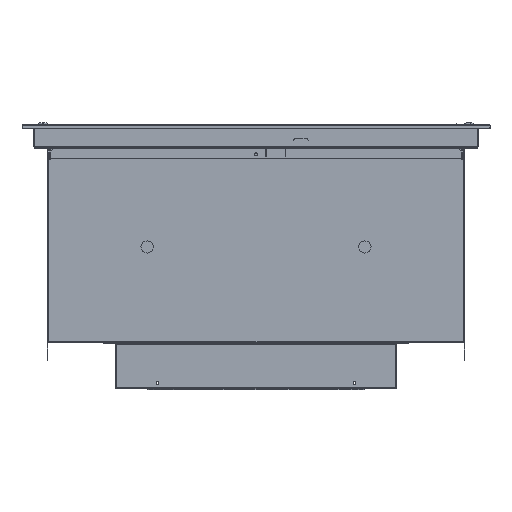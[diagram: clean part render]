
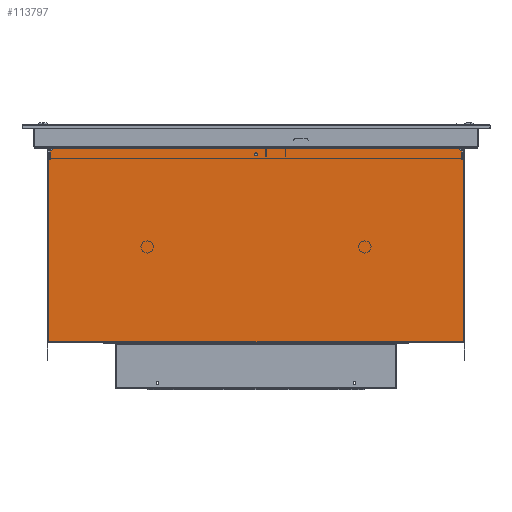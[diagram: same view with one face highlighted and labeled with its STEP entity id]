
A CAD part, left-side view. The second image highlights one B-rep face of the part: STEP entity #113797.
In plain terms, the highlighted planar face has unit normal (-1, 0, 0).
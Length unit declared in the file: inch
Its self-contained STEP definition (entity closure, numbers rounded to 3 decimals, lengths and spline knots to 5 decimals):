
#96 = DIRECTION ( 'NONE',  ( 0., 0., 1. ) ) ;
#731 = DIRECTION ( 'NONE',  ( 0., 0., -1. ) ) ;
#2081 = VERTEX_POINT ( 'NONE', #43000 ) ;
#4626 = EDGE_CURVE ( 'NONE', #74873, #82814, #82978, .T. ) ;
#5043 = CARTESIAN_POINT ( 'NONE',  ( -16.56225, -10.26604, -1.213 ) ) ;
#5802 = VERTEX_POINT ( 'NONE', #47055 ) ;
#6394 = CIRCLE ( 'NONE', #67954, 0.113 ) ;
#6503 = CARTESIAN_POINT ( 'NONE',  ( -16.56225, 10.26604, -1.213 ) ) ;
#7424 = EDGE_CURVE ( 'NONE', #84194, #55666, #53365, .T. ) ;
#9445 = LINE ( 'NONE', #56682, #59741 ) ;
#9709 = EDGE_CURVE ( 'NONE', #42677, #25061, #9445, .T. ) ;
#10925 = CARTESIAN_POINT ( 'NONE',  ( -16.56225, 10.50725, -1.46921 ) ) ;
#11894 = VERTEX_POINT ( 'NONE', #24649 ) ;
#13164 = VECTOR ( 'NONE', #22125, 39.37008 ) ;
#14759 = ORIENTED_EDGE ( 'NONE', *, *, #59697, .T. ) ;
#15608 = CARTESIAN_POINT ( 'NONE',  ( -16.56225, 0., -1.101 ) ) ;
#17993 = ORIENTED_EDGE ( 'NONE', *, *, #9709, .T. ) ;
#18187 = CARTESIAN_POINT ( 'NONE',  ( -16.56225, -10.27664, -1.21739 ) ) ;
#19392 = DIRECTION ( 'NONE',  ( 1., 0., 0. ) ) ;
#19629 = EDGE_CURVE ( 'NONE', #66986, #23298, #77641, .T. ) ;
#19778 = VERTEX_POINT ( 'NONE', #71346 ) ;
#20154 = CARTESIAN_POINT ( 'NONE',  ( -16.56225, -10.51786, -1.45861 ) ) ;
#20260 = LINE ( 'NONE', #114768, #58749 ) ;
#22125 = DIRECTION ( 'NONE',  ( 0., 1., 0. ) ) ;
#23298 = VERTEX_POINT ( 'NONE', #57353 ) ;
#23990 = LINE ( 'NONE', #70587, #13164 ) ;
#24649 = CARTESIAN_POINT ( 'NONE',  ( -16.56225, -0.07, -1.5846 ) ) ;
#24730 = ORIENTED_EDGE ( 'NONE', *, *, #26730, .T. ) ;
#25061 = VERTEX_POINT ( 'NONE', #107801 ) ;
#25860 = LINE ( 'NONE', #81190, #93340 ) ;
#26340 = EDGE_CURVE ( 'NONE', #90129, #19778, #65419, .T. ) ;
#26730 = EDGE_CURVE ( 'NONE', #5802, #19778, #6394, .T. ) ;
#26801 = ORIENTED_EDGE ( 'NONE', *, *, #7424, .T. ) ;
#29556 = DIRECTION ( 'NONE',  ( 0., 1., 0. ) ) ;
#30956 = AXIS2_PLACEMENT_3D ( 'NONE', #10925, #75597, #66242 ) ;
#35100 = ORIENTED_EDGE ( 'NONE', *, *, #91074, .T. ) ;
#35291 = CARTESIAN_POINT ( 'NONE',  ( -16.56225, -10.52225, -1.463 ) ) ;
#35472 = VECTOR ( 'NONE', #50853, 39.37008 ) ;
#36220 = DIRECTION ( 'NONE',  ( 0., -1., 0. ) ) ;
#36950 = CARTESIAN_POINT ( 'NONE',  ( -16.56225, -10.52225, -11.0186 ) ) ;
#38384 = DIRECTION ( 'NONE',  ( -1., 0., 0. ) ) ;
#40894 = CARTESIAN_POINT ( 'NONE',  ( -16.56225, -10.50725, -1.46921 ) ) ;
#41364 = EDGE_CURVE ( 'NONE', #74873, #66986, #20260, .T. ) ;
#41434 = EDGE_CURVE ( 'NONE', #105350, #23298, #56768, .T. ) ;
#41489 = DIRECTION ( 'NONE',  ( -1., 0., 0. ) ) ;
#42677 = VERTEX_POINT ( 'NONE', #97478 ) ;
#42976 = DIRECTION ( 'NONE',  ( 1., 0., 0. ) ) ;
#43000 = CARTESIAN_POINT ( 'NONE',  ( -16.56225, -0.015, -1.213 ) ) ;
#43041 = CARTESIAN_POINT ( 'NONE',  ( -16.56225, 10.27225, -1.213 ) ) ;
#45063 = EDGE_CURVE ( 'NONE', #65215, #105350, #62912, .T. ) ;
#46603 = VECTOR ( 'NONE', #49218, 39.37008 ) ;
#47055 = CARTESIAN_POINT ( 'NONE',  ( -16.56225, 0., -1.214 ) ) ;
#47160 = VECTOR ( 'NONE', #74083, 39.37008 ) ;
#47448 = CARTESIAN_POINT ( 'NONE',  ( -16.56225, 0., -1.101 ) ) ;
#48397 = CIRCLE ( 'NONE', #90120, 0.015 ) ;
#49026 = CARTESIAN_POINT ( 'NONE',  ( -16.56225, 10.52225, -11.0186 ) ) ;
#49218 = DIRECTION ( 'NONE',  ( 0., 0., -1. ) ) ;
#50344 = ORIENTED_EDGE ( 'NONE', *, *, #45063, .T. ) ;
#50853 = DIRECTION ( 'NONE',  ( 0., 0., 1. ) ) ;
#52255 = AXIS2_PLACEMENT_3D ( 'NONE', #115773, #19392, #731 ) ;
#53365 = CIRCLE ( 'NONE', #122894, 0.015 ) ;
#54279 = CARTESIAN_POINT ( 'NONE',  ( -16.56225, 10.56225, -1.213 ) ) ;
#54548 = EDGE_CURVE ( 'NONE', #90129, #65215, #48397, .T. ) ;
#55666 = VERTEX_POINT ( 'NONE', #5043 ) ;
#56682 = CARTESIAN_POINT ( 'NONE',  ( -16.56225, 0.07, -1.5146 ) ) ;
#56768 = CIRCLE ( 'NONE', #30956, 0.015 ) ;
#57353 = CARTESIAN_POINT ( 'NONE',  ( -16.56225, 10.52225, -1.46921 ) ) ;
#58286 = CARTESIAN_POINT ( 'NONE',  ( -16.56225, -10.26604, -1.228 ) ) ;
#58749 = VECTOR ( 'NONE', #29556, 39.37008 ) ;
#59697 = EDGE_CURVE ( 'NONE', #98917, #84194, #74457, .T. ) ;
#59741 = VECTOR ( 'NONE', #96, 39.37008 ) ;
#61980 = CIRCLE ( 'NONE', #81779, 0.015 ) ;
#62192 = AXIS2_PLACEMENT_3D ( 'NONE', #109492, #107025, #90203 ) ;
#62624 = CARTESIAN_POINT ( 'NONE',  ( -16.56225, -10.52225, -1.46921 ) ) ;
#62912 = LINE ( 'NONE', #43041, #47160 ) ;
#63671 = DIRECTION ( 'NONE',  ( 0., 0., -1. ) ) ;
#64287 = DIRECTION ( 'NONE',  ( 1., 0., 0. ) ) ;
#64935 = DIRECTION ( 'NONE',  ( 0., 0., 1. ) ) ;
#65215 = VERTEX_POINT ( 'NONE', #119326 ) ;
#65371 = CARTESIAN_POINT ( 'NONE',  ( -16.56225, -10.52225, -11.0186 ) ) ;
#65419 = LINE ( 'NONE', #54279, #115586 ) ;
#65593 = EDGE_CURVE ( 'NONE', #82814, #98917, #61980, .T. ) ;
#66242 = DIRECTION ( 'NONE',  ( 0., 0., -1. ) ) ;
#66293 = CARTESIAN_POINT ( 'NONE',  ( -16.56225, 10.26604, -1.228 ) ) ;
#66516 = ORIENTED_EDGE ( 'NONE', *, *, #19629, .F. ) ;
#66986 = VERTEX_POINT ( 'NONE', #110068 ) ;
#67954 = AXIS2_PLACEMENT_3D ( 'NONE', #15608, #42976, #89609 ) ;
#70587 = CARTESIAN_POINT ( 'NONE',  ( -16.56225, 0.07, -1.5846 ) ) ;
#71346 = CARTESIAN_POINT ( 'NONE',  ( -16.56225, 0.015, -1.213 ) ) ;
#74083 = DIRECTION ( 'NONE',  ( 0., 0.707, -0.707 ) ) ;
#74457 = LINE ( 'NONE', #35291, #120577 ) ;
#74873 = VERTEX_POINT ( 'NONE', #65371 ) ;
#75597 = DIRECTION ( 'NONE',  ( -1., 0., 0. ) ) ;
#75980 = FACE_BOUND ( 'NONE', #88515, .T. ) ;
#77641 = LINE ( 'NONE', #49026, #35472 ) ;
#78097 = ORIENTED_EDGE ( 'NONE', *, *, #26340, .F. ) ;
#78456 = ORIENTED_EDGE ( 'NONE', *, *, #113882, .T. ) ;
#79040 = CARTESIAN_POINT ( 'NONE',  ( -16.56225, -0.07, -1.5846 ) ) ;
#81190 = CARTESIAN_POINT ( 'NONE',  ( -16.56225, 10.56225, -1.213 ) ) ;
#81779 = AXIS2_PLACEMENT_3D ( 'NONE', #40894, #41489, #99917 ) ;
#82156 = EDGE_CURVE ( 'NONE', #2081, #5802, #99270, .T. ) ;
#82814 = VERTEX_POINT ( 'NONE', #62624 ) ;
#82978 = LINE ( 'NONE', #36950, #94050 ) ;
#83011 = DIRECTION ( 'NONE',  ( 0., -1., 0. ) ) ;
#84194 = VERTEX_POINT ( 'NONE', #18187 ) ;
#84398 = DIRECTION ( 'NONE',  ( 0., 0., -1. ) ) ;
#85559 = DIRECTION ( 'NONE',  ( -1., 0., 0. ) ) ;
#88515 = EDGE_LOOP ( 'NONE', ( #17993, #78456, #121997, #35100 ) ) ;
#89609 = DIRECTION ( 'NONE',  ( 0., 0., -1. ) ) ;
#89978 = ORIENTED_EDGE ( 'NONE', *, *, #4626, .T. ) ;
#90120 = AXIS2_PLACEMENT_3D ( 'NONE', #66293, #85559, #93047 ) ;
#90129 = VERTEX_POINT ( 'NONE', #6503 ) ;
#90203 = DIRECTION ( 'NONE',  ( 0., 0., -1. ) ) ;
#91074 = EDGE_CURVE ( 'NONE', #11894, #42677, #23990, .T. ) ;
#92149 = EDGE_LOOP ( 'NONE', ( #120483, #105149, #24730, #78097, #107669, #50344, #105677, #66516, #120709, #89978, #92777, #14759, #26801 ) ) ;
#92777 = ORIENTED_EDGE ( 'NONE', *, *, #65593, .T. ) ;
#93047 = DIRECTION ( 'NONE',  ( 0., 0., -1. ) ) ;
#93340 = VECTOR ( 'NONE', #83011, 39.37008 ) ;
#93928 = CIRCLE ( 'NONE', #62192, 0.07 ) ;
#94050 = VECTOR ( 'NONE', #64935, 39.37008 ) ;
#94397 = CARTESIAN_POINT ( 'NONE',  ( -16.56225, 10.51786, -1.45861 ) ) ;
#95844 = FACE_OUTER_BOUND ( 'NONE', #92149, .T. ) ;
#97478 = CARTESIAN_POINT ( 'NONE',  ( -16.56225, 0.07, -1.5846 ) ) ;
#98917 = VERTEX_POINT ( 'NONE', #20154 ) ;
#99270 = CIRCLE ( 'NONE', #111190, 0.113 ) ;
#99917 = DIRECTION ( 'NONE',  ( 0., 0., -1. ) ) ;
#100481 = EDGE_CURVE ( 'NONE', #117527, #11894, #105803, .T. ) ;
#101802 = CARTESIAN_POINT ( 'NONE',  ( -16.56225, -0.07, -1.5146 ) ) ;
#105149 = ORIENTED_EDGE ( 'NONE', *, *, #82156, .T. ) ;
#105350 = VERTEX_POINT ( 'NONE', #94397 ) ;
#105677 = ORIENTED_EDGE ( 'NONE', *, *, #41434, .T. ) ;
#105802 = PLANE ( 'NONE',  #52255 ) ;
#105803 = LINE ( 'NONE', #79040, #46603 ) ;
#107025 = DIRECTION ( 'NONE',  ( 1., 0., 0. ) ) ;
#107669 = ORIENTED_EDGE ( 'NONE', *, *, #54548, .T. ) ;
#107801 = CARTESIAN_POINT ( 'NONE',  ( -16.56225, 0.07, -1.5146 ) ) ;
#109044 = EDGE_CURVE ( 'NONE', #2081, #55666, #25860, .T. ) ;
#109492 = CARTESIAN_POINT ( 'NONE',  ( -16.56225, 0., -1.5146 ) ) ;
#110068 = CARTESIAN_POINT ( 'NONE',  ( -16.56225, 10.52225, -11.0186 ) ) ;
#111190 = AXIS2_PLACEMENT_3D ( 'NONE', #47448, #64287, #63671 ) ;
#113009 = DIRECTION ( 'NONE',  ( 0., 0.707, 0.707 ) ) ;
#113797 = ADVANCED_FACE ( 'Face1', ( #75980, #95844 ), #105802, .F. ) ;
#113882 = EDGE_CURVE ( 'NONE', #25061, #117527, #93928, .T. ) ;
#114768 = CARTESIAN_POINT ( 'NONE',  ( -16.56225, 10.56225, -11.0186 ) ) ;
#115586 = VECTOR ( 'NONE', #36220, 39.37008 ) ;
#115773 = CARTESIAN_POINT ( 'NONE',  ( -16.56225, 0., 0. ) ) ;
#117527 = VERTEX_POINT ( 'NONE', #101802 ) ;
#119326 = CARTESIAN_POINT ( 'NONE',  ( -16.56225, 10.27664, -1.21739 ) ) ;
#120483 = ORIENTED_EDGE ( 'NONE', *, *, #109044, .F. ) ;
#120577 = VECTOR ( 'NONE', #113009, 39.37008 ) ;
#120709 = ORIENTED_EDGE ( 'NONE', *, *, #41364, .F. ) ;
#121997 = ORIENTED_EDGE ( 'NONE', *, *, #100481, .T. ) ;
#122894 = AXIS2_PLACEMENT_3D ( 'NONE', #58286, #38384, #84398 ) ;
